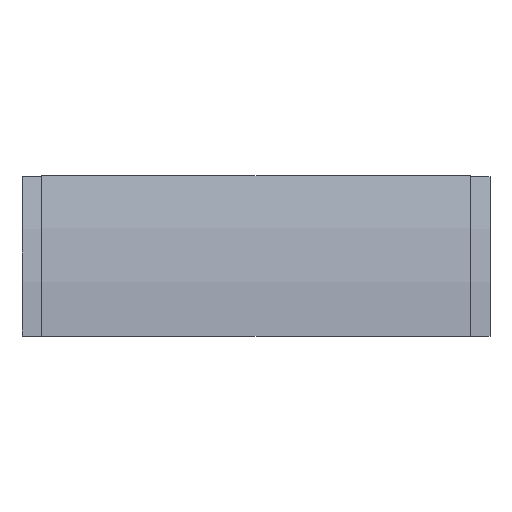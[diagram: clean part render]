
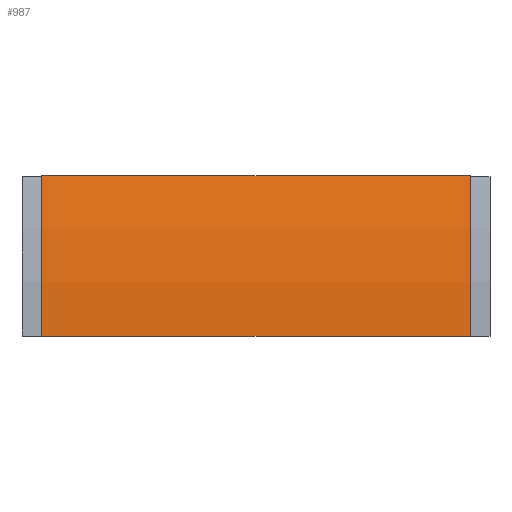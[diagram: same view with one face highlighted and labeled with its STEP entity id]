
A CAD part, front view. The second image highlights one B-rep face of the part: STEP entity #987.
In plain terms, the highlighted cylindrical face has radius 568 mm (diameter 1136 mm), a partial arc.
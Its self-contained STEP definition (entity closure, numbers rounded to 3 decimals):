
#5 = CARTESIAN_POINT ( 'NONE',  ( 0., 500., 0. ) ) ;
#10 = DIRECTION ( 'NONE',  ( 0., 0., -1. ) ) ;
#14 = DIRECTION ( 'NONE',  ( 1., 0., 0. ) ) ;
#73 = EDGE_CURVE ( 'NONE', #714, #716, #798, .T. ) ;
#74 = EDGE_CURVE ( 'NONE', #722, #724, #794, .T. ) ;
#75 = EDGE_CURVE ( 'NONE', #724, #716, #801, .T. ) ;
#78 = EDGE_CURVE ( 'NONE', #722, #714, #806, .T. ) ;
#145 = AXIS2_PLACEMENT_3D ( 'NONE', #375, #374, #392 ) ;
#146 = AXIS2_PLACEMENT_3D ( 'NONE', #229, #213, #341 ) ;
#213 = DIRECTION ( 'NONE',  ( 1., 0., 0. ) ) ;
#229 = CARTESIAN_POINT ( 'NONE',  ( -228.5, 500., 0. ) ) ;
#261 = CARTESIAN_POINT ( 'NONE',  ( -228.5, -68., 0. ) ) ;
#339 = CARTESIAN_POINT ( 'NONE',  ( 228.5, -41.711, 170.801 ) ) ;
#341 = DIRECTION ( 'NONE',  ( 0., 0., -1. ) ) ;
#342 = CARTESIAN_POINT ( 'NONE',  ( -228.5, -41.711, 170.801 ) ) ;
#347 = CARTESIAN_POINT ( 'NONE',  ( 228.5, -68., 0. ) ) ;
#348 = CARTESIAN_POINT ( 'NONE',  ( -228.5, -68., 0. ) ) ;
#368 = CARTESIAN_POINT ( 'NONE',  ( -228.5, -41.711, 170.801 ) ) ;
#370 = DIRECTION ( 'NONE',  ( 1., 0., 0. ) ) ;
#374 = DIRECTION ( 'NONE',  ( 1., 0., 0. ) ) ;
#375 = CARTESIAN_POINT ( 'NONE',  ( 228.5, 500., 0. ) ) ;
#392 = DIRECTION ( 'NONE',  ( 0., 0., -1. ) ) ;
#399 = DIRECTION ( 'NONE',  ( 1., 0., 0. ) ) ;
#576 = ORIENTED_EDGE ( 'NONE', *, *, #75, .F. ) ;
#577 = ORIENTED_EDGE ( 'NONE', *, *, #74, .F. ) ;
#578 = ORIENTED_EDGE ( 'NONE', *, *, #78, .T. ) ;
#579 = ORIENTED_EDGE ( 'NONE', *, *, #73, .T. ) ;
#714 = VERTEX_POINT ( 'NONE', #348 ) ;
#716 = VERTEX_POINT ( 'NONE', #347 ) ;
#722 = VERTEX_POINT ( 'NONE', #342 ) ;
#724 = VERTEX_POINT ( 'NONE', #339 ) ;
#794 = LINE ( 'NONE', #368, #802 ) ;
#798 = LINE ( 'NONE', #261, #800 ) ;
#800 = VECTOR ( 'NONE', #370, 1000. ) ;
#801 = CIRCLE ( 'NONE', #145, 568. ) ;
#802 = VECTOR ( 'NONE', #399, 1000. ) ;
#806 = CIRCLE ( 'NONE', #146, 568. ) ;
#949 = FACE_OUTER_BOUND ( 'NONE', #1022, .T. ) ;
#953 = CYLINDRICAL_SURFACE ( 'NONE', #1013, 568. ) ;
#987 = ADVANCED_FACE ( 'NONE', ( #949 ), #953, .T. ) ;
#1013 = AXIS2_PLACEMENT_3D ( 'NONE', #5, #14, #10 ) ;
#1022 = EDGE_LOOP ( 'NONE', ( #576, #577, #578, #579 ) ) ;
